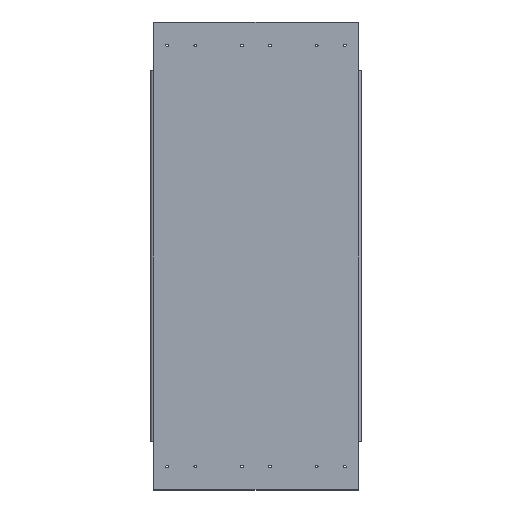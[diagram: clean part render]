
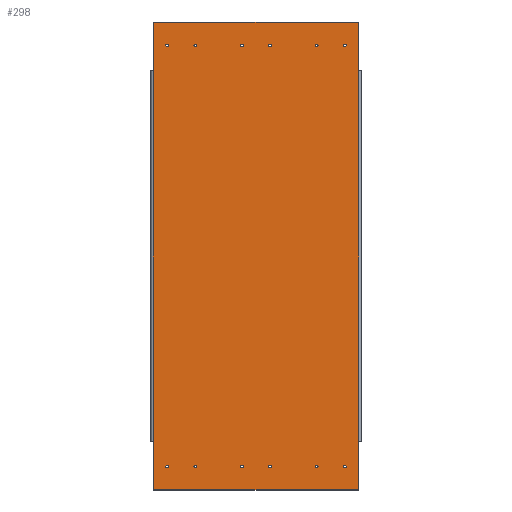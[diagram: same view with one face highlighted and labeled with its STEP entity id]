
A CAD part, top view. The second image highlights one B-rep face of the part: STEP entity #298.
In plain terms, the highlighted planar face has unit normal (0, 0, 1).
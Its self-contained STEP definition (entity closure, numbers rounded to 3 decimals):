
#59=CARTESIAN_POINT('',(1580.,3593.5,427.5));
#60=DIRECTION('',(-0.,-0.,1.));
#61=DIRECTION('',(0.,1.,0.));
#62=AXIS2_PLACEMENT_3D('',#59,#60,#61);
#63=PLANE('',#62);
#64=CARTESIAN_POINT('',(1210.,3630.9,427.5));
#65=VERTEX_POINT('',#64);
#66=CARTESIAN_POINT('',(1210.,3633.5,427.5));
#67=DIRECTION('',(-0.,-0.,1.));
#68=DIRECTION('',(0.,-1.,-0.));
#69=AXIS2_PLACEMENT_3D('',#66,#67,#68);
#70=CIRCLE('',#69,2.6);
#71=EDGE_CURVE('',#65,#65,#70,.T.);
#72=ORIENTED_EDGE('',*,*,#71,.F.);
#73=EDGE_LOOP('',(#72));
#74=FACE_BOUND('',#73,.T.);
#75=CARTESIAN_POINT('',(1270.,3630.9,427.5));
#76=VERTEX_POINT('',#75);
#77=CARTESIAN_POINT('',(1270.,3633.5,427.5));
#78=DIRECTION('',(-0.,-0.,1.));
#79=DIRECTION('',(0.,-1.,-0.));
#80=AXIS2_PLACEMENT_3D('',#77,#78,#79);
#81=CIRCLE('',#80,2.6);
#82=EDGE_CURVE('',#76,#76,#81,.T.);
#83=ORIENTED_EDGE('',*,*,#82,.F.);
#84=EDGE_LOOP('',(#83));
#85=FACE_BOUND('',#84,.T.);
#86=CARTESIAN_POINT('',(1370.,3630.9,427.5));
#87=VERTEX_POINT('',#86);
#88=CARTESIAN_POINT('',(1370.,3633.5,427.5));
#89=DIRECTION('',(-0.,-0.,1.));
#90=DIRECTION('',(0.,-1.,-0.));
#91=AXIS2_PLACEMENT_3D('',#88,#89,#90);
#92=CIRCLE('',#91,2.6);
#93=EDGE_CURVE('',#87,#87,#92,.T.);
#94=ORIENTED_EDGE('',*,*,#93,.F.);
#95=EDGE_LOOP('',(#94));
#96=FACE_BOUND('',#95,.T.);
#97=CARTESIAN_POINT('',(1430.,3630.9,427.5));
#98=VERTEX_POINT('',#97);
#99=CARTESIAN_POINT('',(1430.,3633.5,427.5));
#100=DIRECTION('',(-0.,-0.,1.));
#101=DIRECTION('',(0.,-1.,-0.));
#102=AXIS2_PLACEMENT_3D('',#99,#100,#101);
#103=CIRCLE('',#102,2.6);
#104=EDGE_CURVE('',#98,#98,#103,.T.);
#105=ORIENTED_EDGE('',*,*,#104,.F.);
#106=EDGE_LOOP('',(#105));
#107=FACE_BOUND('',#106,.T.);
#108=CARTESIAN_POINT('',(1530.,3630.9,427.5));
#109=VERTEX_POINT('',#108);
#110=CARTESIAN_POINT('',(1530.,3633.5,427.5));
#111=DIRECTION('',(-0.,-0.,1.));
#112=DIRECTION('',(0.,-1.,-0.));
#113=AXIS2_PLACEMENT_3D('',#110,#111,#112);
#114=CIRCLE('',#113,2.6);
#115=EDGE_CURVE('',#109,#109,#114,.T.);
#116=ORIENTED_EDGE('',*,*,#115,.F.);
#117=EDGE_LOOP('',(#116));
#118=FACE_BOUND('',#117,.T.);
#119=CARTESIAN_POINT('',(1590.,3630.9,427.5));
#120=VERTEX_POINT('',#119);
#121=CARTESIAN_POINT('',(1590.,3633.5,427.5));
#122=DIRECTION('',(-0.,-0.,1.));
#123=DIRECTION('',(0.,-1.,-0.));
#124=AXIS2_PLACEMENT_3D('',#121,#122,#123);
#125=CIRCLE('',#124,2.6);
#126=EDGE_CURVE('',#120,#120,#125,.T.);
#127=ORIENTED_EDGE('',*,*,#126,.F.);
#128=EDGE_LOOP('',(#127));
#129=FACE_BOUND('',#128,.T.);
#130=CARTESIAN_POINT('',(1270.,4530.9,427.5));
#131=VERTEX_POINT('',#130);
#132=CARTESIAN_POINT('',(1270.,4533.5,427.5));
#133=DIRECTION('',(-0.,-0.,1.));
#134=DIRECTION('',(0.,-1.,-0.));
#135=AXIS2_PLACEMENT_3D('',#132,#133,#134);
#136=CIRCLE('',#135,2.6);
#137=EDGE_CURVE('',#131,#131,#136,.T.);
#138=ORIENTED_EDGE('',*,*,#137,.F.);
#139=EDGE_LOOP('',(#138));
#140=FACE_BOUND('',#139,.T.);
#141=CARTESIAN_POINT('',(1210.,4530.9,427.5));
#142=VERTEX_POINT('',#141);
#143=CARTESIAN_POINT('',(1210.,4533.5,427.5));
#144=DIRECTION('',(-0.,-0.,1.));
#145=DIRECTION('',(0.,-1.,-0.));
#146=AXIS2_PLACEMENT_3D('',#143,#144,#145);
#147=CIRCLE('',#146,2.6);
#148=EDGE_CURVE('',#142,#142,#147,.T.);
#149=ORIENTED_EDGE('',*,*,#148,.F.);
#150=EDGE_LOOP('',(#149));
#151=FACE_BOUND('',#150,.T.);
#152=CARTESIAN_POINT('',(1590.,4530.9,427.5));
#153=VERTEX_POINT('',#152);
#154=CARTESIAN_POINT('',(1590.,4533.5,427.5));
#155=DIRECTION('',(-0.,-0.,1.));
#156=DIRECTION('',(0.,-1.,-0.));
#157=AXIS2_PLACEMENT_3D('',#154,#155,#156);
#158=CIRCLE('',#157,2.6);
#159=EDGE_CURVE('',#153,#153,#158,.T.);
#160=ORIENTED_EDGE('',*,*,#159,.F.);
#161=EDGE_LOOP('',(#160));
#162=FACE_BOUND('',#161,.T.);
#163=CARTESIAN_POINT('',(1530.,4530.9,427.5));
#164=VERTEX_POINT('',#163);
#165=CARTESIAN_POINT('',(1530.,4533.5,427.5));
#166=DIRECTION('',(-0.,-0.,1.));
#167=DIRECTION('',(0.,-1.,-0.));
#168=AXIS2_PLACEMENT_3D('',#165,#166,#167);
#169=CIRCLE('',#168,2.6);
#170=EDGE_CURVE('',#164,#164,#169,.T.);
#171=ORIENTED_EDGE('',*,*,#170,.F.);
#172=EDGE_LOOP('',(#171));
#173=FACE_BOUND('',#172,.T.);
#174=CARTESIAN_POINT('',(1370.,4530.9,427.5));
#175=VERTEX_POINT('',#174);
#176=CARTESIAN_POINT('',(1370.,4533.5,427.5));
#177=DIRECTION('',(-0.,-0.,1.));
#178=DIRECTION('',(0.,-1.,-0.));
#179=AXIS2_PLACEMENT_3D('',#176,#177,#178);
#180=CIRCLE('',#179,2.6);
#181=EDGE_CURVE('',#175,#175,#180,.T.);
#182=ORIENTED_EDGE('',*,*,#181,.F.);
#183=EDGE_LOOP('',(#182));
#184=FACE_BOUND('',#183,.T.);
#185=CARTESIAN_POINT('',(1430.,4530.9,427.5));
#186=VERTEX_POINT('',#185);
#187=CARTESIAN_POINT('',(1430.,4533.5,427.5));
#188=DIRECTION('',(-0.,-0.,1.));
#189=DIRECTION('',(0.,-1.,-0.));
#190=AXIS2_PLACEMENT_3D('',#187,#188,#189);
#191=CIRCLE('',#190,2.6);
#192=EDGE_CURVE('',#186,#186,#191,.T.);
#193=ORIENTED_EDGE('',*,*,#192,.F.);
#194=EDGE_LOOP('',(#193));
#195=FACE_BOUND('',#194,.T.);
#196=CARTESIAN_POINT('',(1180.,4479.5,427.5));
#197=VERTEX_POINT('',#196);
#198=CARTESIAN_POINT('',(1180.,4582.5,427.5));
#199=VERTEX_POINT('',#198);
#200=CARTESIAN_POINT('',(1180.,4479.5,427.5));
#201=DIRECTION('',(0.,1.,0.));
#202=VECTOR('',#201,103.);
#203=LINE('',#200,#202);
#204=EDGE_CURVE('',#197,#199,#203,.T.);
#205=ORIENTED_EDGE('',*,*,#204,.F.);
#206=CARTESIAN_POINT('',(1180.,3687.5,427.5));
#207=VERTEX_POINT('',#206);
#208=CARTESIAN_POINT('',(1180.,4479.5,427.5));
#209=DIRECTION('',(-0.,-1.,-0.));
#210=VECTOR('',#209,792.);
#211=LINE('',#208,#210);
#212=EDGE_CURVE('',#197,#207,#211,.T.);
#213=ORIENTED_EDGE('',*,*,#212,.T.);
#214=CARTESIAN_POINT('',(1180.,3584.5,427.5));
#215=VERTEX_POINT('',#214);
#216=CARTESIAN_POINT('',(1180.,3687.5,427.5));
#217=DIRECTION('',(0.,-1.,-0.));
#218=VECTOR('',#217,103.);
#219=LINE('',#216,#218);
#220=EDGE_CURVE('',#207,#215,#219,.T.);
#221=ORIENTED_EDGE('',*,*,#220,.T.);
#222=CARTESIAN_POINT('',(1181.,3583.5,427.5));
#223=VERTEX_POINT('',#222);
#224=CARTESIAN_POINT('',(1181.,3584.5,427.5));
#225=DIRECTION('',(-0.,-0.,1.));
#226=DIRECTION('',(0.,-1.,-0.));
#227=AXIS2_PLACEMENT_3D('',#224,#225,#226);
#228=CIRCLE('',#227,1.);
#229=EDGE_CURVE('',#215,#223,#228,.T.);
#230=ORIENTED_EDGE('',*,*,#229,.T.);
#231=CARTESIAN_POINT('',(1619.,3583.5,427.5));
#232=VERTEX_POINT('',#231);
#233=CARTESIAN_POINT('',(1619.,3583.5,427.5));
#234=DIRECTION('',(-1.,0.,0.));
#235=VECTOR('',#234,438.);
#236=LINE('',#233,#235);
#237=EDGE_CURVE('',#232,#223,#236,.T.);
#238=ORIENTED_EDGE('',*,*,#237,.F.);
#239=CARTESIAN_POINT('',(1620.,3584.5,427.5));
#240=VERTEX_POINT('',#239);
#241=CARTESIAN_POINT('',(1619.,3584.5,427.5));
#242=DIRECTION('',(-0.,-0.,1.));
#243=DIRECTION('',(0.,-1.,-0.));
#244=AXIS2_PLACEMENT_3D('',#241,#242,#243);
#245=CIRCLE('',#244,1.);
#246=EDGE_CURVE('',#232,#240,#245,.T.);
#247=ORIENTED_EDGE('',*,*,#246,.T.);
#248=CARTESIAN_POINT('',(1620.,3687.5,427.5));
#249=VERTEX_POINT('',#248);
#250=CARTESIAN_POINT('',(1620.,3687.5,427.5));
#251=DIRECTION('',(0.,-1.,-0.));
#252=VECTOR('',#251,103.);
#253=LINE('',#250,#252);
#254=EDGE_CURVE('',#249,#240,#253,.T.);
#255=ORIENTED_EDGE('',*,*,#254,.F.);
#256=CARTESIAN_POINT('',(1620.,4479.5,427.5));
#257=VERTEX_POINT('',#256);
#258=CARTESIAN_POINT('',(1620.,3687.5,427.5));
#259=DIRECTION('',(0.,1.,0.));
#260=VECTOR('',#259,792.);
#261=LINE('',#258,#260);
#262=EDGE_CURVE('',#249,#257,#261,.T.);
#263=ORIENTED_EDGE('',*,*,#262,.T.);
#264=CARTESIAN_POINT('',(1620.,4582.5,427.5));
#265=VERTEX_POINT('',#264);
#266=CARTESIAN_POINT('',(1620.,4479.5,427.5));
#267=DIRECTION('',(0.,1.,0.));
#268=VECTOR('',#267,103.);
#269=LINE('',#266,#268);
#270=EDGE_CURVE('',#257,#265,#269,.T.);
#271=ORIENTED_EDGE('',*,*,#270,.T.);
#272=CARTESIAN_POINT('',(1619.,4583.5,427.5));
#273=VERTEX_POINT('',#272);
#274=CARTESIAN_POINT('',(1619.,4582.5,427.5));
#275=DIRECTION('',(-0.,-0.,1.));
#276=DIRECTION('',(0.,-1.,-0.));
#277=AXIS2_PLACEMENT_3D('',#274,#275,#276);
#278=CIRCLE('',#277,1.);
#279=EDGE_CURVE('',#265,#273,#278,.T.);
#280=ORIENTED_EDGE('',*,*,#279,.T.);
#281=CARTESIAN_POINT('',(1181.,4583.5,427.5));
#282=VERTEX_POINT('',#281);
#283=CARTESIAN_POINT('',(1619.,4583.5,427.5));
#284=DIRECTION('',(-1.,0.,0.));
#285=VECTOR('',#284,438.);
#286=LINE('',#283,#285);
#287=EDGE_CURVE('',#273,#282,#286,.T.);
#288=ORIENTED_EDGE('',*,*,#287,.T.);
#289=CARTESIAN_POINT('',(1181.,4582.5,427.5));
#290=DIRECTION('',(-0.,-0.,1.));
#291=DIRECTION('',(0.,-1.,-0.));
#292=AXIS2_PLACEMENT_3D('',#289,#290,#291);
#293=CIRCLE('',#292,1.);
#294=EDGE_CURVE('',#282,#199,#293,.T.);
#295=ORIENTED_EDGE('',*,*,#294,.T.);
#296=EDGE_LOOP('',(#205,#213,#221,#230,#238,#247,#255,#263,#271,#280,#288,#295));
#297=FACE_BOUND('',#296,.T.);
#298=ADVANCED_FACE('',(#74,#85,#96,#107,#118,#129,#140,#151,#162,#173,#184,#195,#297),#63,.T.);
